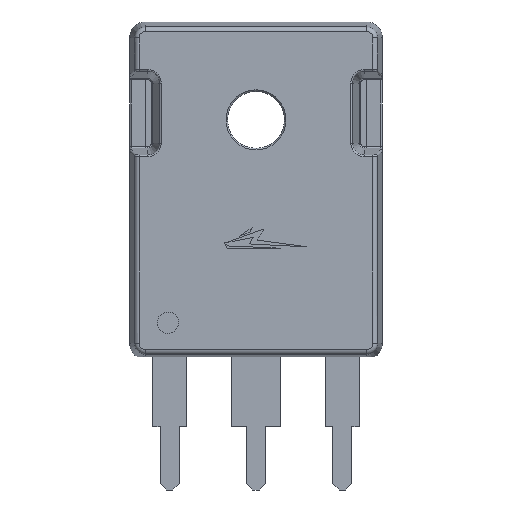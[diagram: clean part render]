
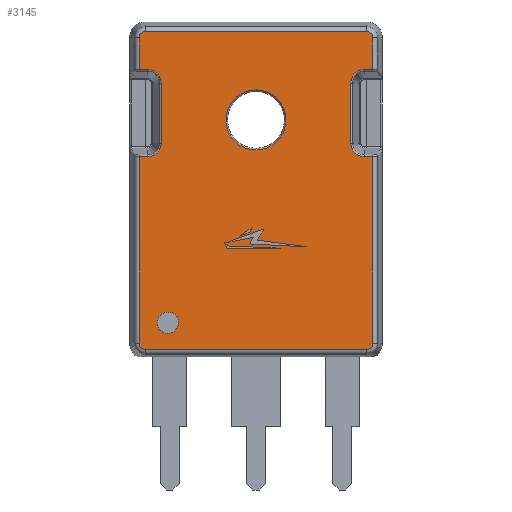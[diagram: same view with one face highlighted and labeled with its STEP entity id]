
A CAD part, left-side view. The second image highlights one B-rep face of the part: STEP entity #3145.
In plain terms, the highlighted planar face has unit normal (-1, 0, 0).
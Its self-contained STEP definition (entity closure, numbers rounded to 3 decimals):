
#163=FACE_BOUND('',#538,.T.);
#218=CIRCLE('',#3367,1.89);
#219=CIRCLE('',#3369,0.396);
#220=CIRCLE('',#3370,0.396);
#221=CIRCLE('',#3371,0.844);
#222=CIRCLE('',#3372,0.844);
#223=CIRCLE('',#3373,0.396);
#224=CIRCLE('',#3374,0.396);
#225=CIRCLE('',#3375,0.844);
#226=CIRCLE('',#3376,0.844);
#334=FACE_OUTER_BOUND('',#537,.T.);
#537=EDGE_LOOP('',(#2141,#2142,#2143,#2144,#2145,#2146,#2147,#2148,#2149,
#2150,#2151,#2152,#2153,#2154,#2155,#2156,#2157,#2158,#2159,#2160));
#538=EDGE_LOOP('',(#2161));
#747=LINE('',#4689,#1051);
#748=LINE('',#4691,#1052);
#749=LINE('',#4695,#1053);
#750=LINE('',#4699,#1054);
#751=LINE('',#4701,#1055);
#752=LINE('',#4705,#1056);
#753=LINE('',#4709,#1057);
#754=LINE('',#4711,#1058);
#755=LINE('',#4715,#1059);
#756=LINE('',#4719,#1060);
#757=LINE('',#4721,#1061);
#758=LINE('',#4725,#1062);
#1051=VECTOR('',#3727,0.546);
#1052=VECTOR('',#3728,11.766);
#1053=VECTOR('',#3731,13.94);
#1054=VECTOR('',#3734,11.766);
#1055=VECTOR('',#3735,0.546);
#1056=VECTOR('',#3738,3.79);
#1057=VECTOR('',#3741,0.546);
#1058=VECTOR('',#3742,2.006);
#1059=VECTOR('',#3745,13.94);
#1060=VECTOR('',#3748,2.006);
#1061=VECTOR('',#3749,0.546);
#1062=VECTOR('',#3752,3.79);
#1370=VERTEX_POINT('',#4684);
#1371=VERTEX_POINT('',#4687);
#1372=VERTEX_POINT('',#4688);
#1373=VERTEX_POINT('',#4690);
#1374=VERTEX_POINT('',#4692);
#1375=VERTEX_POINT('',#4694);
#1376=VERTEX_POINT('',#4696);
#1377=VERTEX_POINT('',#4698);
#1378=VERTEX_POINT('',#4700);
#1379=VERTEX_POINT('',#4702);
#1380=VERTEX_POINT('',#4704);
#1381=VERTEX_POINT('',#4706);
#1382=VERTEX_POINT('',#4708);
#1383=VERTEX_POINT('',#4710);
#1384=VERTEX_POINT('',#4712);
#1385=VERTEX_POINT('',#4714);
#1386=VERTEX_POINT('',#4716);
#1387=VERTEX_POINT('',#4718);
#1388=VERTEX_POINT('',#4720);
#1389=VERTEX_POINT('',#4722);
#1390=VERTEX_POINT('',#4724);
#1666=EDGE_CURVE('',#1370,#1370,#218,.T.);
#1667=EDGE_CURVE('',#1371,#1372,#747,.T.);
#1668=EDGE_CURVE('',#1373,#1371,#748,.T.);
#1669=EDGE_CURVE('',#1374,#1373,#219,.T.);
#1670=EDGE_CURVE('',#1375,#1374,#749,.T.);
#1671=EDGE_CURVE('',#1376,#1375,#220,.T.);
#1672=EDGE_CURVE('',#1377,#1376,#750,.T.);
#1673=EDGE_CURVE('',#1378,#1377,#751,.T.);
#1674=EDGE_CURVE('',#1379,#1378,#221,.T.);
#1675=EDGE_CURVE('',#1380,#1379,#752,.T.);
#1676=EDGE_CURVE('',#1381,#1380,#222,.T.);
#1677=EDGE_CURVE('',#1382,#1381,#753,.T.);
#1678=EDGE_CURVE('',#1383,#1382,#754,.T.);
#1679=EDGE_CURVE('',#1384,#1383,#223,.T.);
#1680=EDGE_CURVE('',#1385,#1384,#755,.T.);
#1681=EDGE_CURVE('',#1386,#1385,#224,.T.);
#1682=EDGE_CURVE('',#1387,#1386,#756,.T.);
#1683=EDGE_CURVE('',#1388,#1387,#757,.T.);
#1684=EDGE_CURVE('',#1389,#1388,#225,.T.);
#1685=EDGE_CURVE('',#1390,#1389,#758,.T.);
#1686=EDGE_CURVE('',#1372,#1390,#226,.T.);
#2141=ORIENTED_EDGE('',*,*,#1667,.F.);
#2142=ORIENTED_EDGE('',*,*,#1668,.F.);
#2143=ORIENTED_EDGE('',*,*,#1669,.F.);
#2144=ORIENTED_EDGE('',*,*,#1670,.F.);
#2145=ORIENTED_EDGE('',*,*,#1671,.F.);
#2146=ORIENTED_EDGE('',*,*,#1672,.F.);
#2147=ORIENTED_EDGE('',*,*,#1673,.F.);
#2148=ORIENTED_EDGE('',*,*,#1674,.F.);
#2149=ORIENTED_EDGE('',*,*,#1675,.F.);
#2150=ORIENTED_EDGE('',*,*,#1676,.F.);
#2151=ORIENTED_EDGE('',*,*,#1677,.F.);
#2152=ORIENTED_EDGE('',*,*,#1678,.F.);
#2153=ORIENTED_EDGE('',*,*,#1679,.F.);
#2154=ORIENTED_EDGE('',*,*,#1680,.F.);
#2155=ORIENTED_EDGE('',*,*,#1681,.F.);
#2156=ORIENTED_EDGE('',*,*,#1682,.F.);
#2157=ORIENTED_EDGE('',*,*,#1683,.F.);
#2158=ORIENTED_EDGE('',*,*,#1684,.F.);
#2159=ORIENTED_EDGE('',*,*,#1685,.F.);
#2160=ORIENTED_EDGE('',*,*,#1686,.F.);
#2161=ORIENTED_EDGE('',*,*,#1666,.F.);
#3031=PLANE('',#3368);
#3145=ADVANCED_FACE('',(#334,#163),#3031,.T.);
#3367=AXIS2_PLACEMENT_3D('',#4685,#3723,#3724);
#3368=AXIS2_PLACEMENT_3D('',#4686,#3725,#3726);
#3369=AXIS2_PLACEMENT_3D('',#4693,#3729,#3730);
#3370=AXIS2_PLACEMENT_3D('',#4697,#3732,#3733);
#3371=AXIS2_PLACEMENT_3D('',#4703,#3736,#3737);
#3372=AXIS2_PLACEMENT_3D('',#4707,#3739,#3740);
#3373=AXIS2_PLACEMENT_3D('',#4713,#3743,#3744);
#3374=AXIS2_PLACEMENT_3D('',#4717,#3746,#3747);
#3375=AXIS2_PLACEMENT_3D('',#4723,#3750,#3751);
#3376=AXIS2_PLACEMENT_3D('',#4726,#3753,#3754);
#3723=DIRECTION('center_axis',(-1.,0.,0.));
#3724=DIRECTION('ref_axis',(0.,0.,
-1.));
#3725=DIRECTION('center_axis',(-1.,0.,0.));
#3726=DIRECTION('ref_axis',(0.,-1.,0.));
#3727=DIRECTION('',(0.,-1.,0.));
#3728=DIRECTION('',(0.,0.,1.));
#3729=DIRECTION('center_axis',(1.,0.,0.));
#3730=DIRECTION('ref_axis',(0.,0.707,-0.707));
#3731=DIRECTION('',(0.,1.,0.));
#3732=DIRECTION('center_axis',(1.,0.,0.));
#3733=DIRECTION('ref_axis',(0.,-0.707,-0.707));
#3734=DIRECTION('',(0.,0.,-1.));
#3735=DIRECTION('',(0.,-1.,0.));
#3736=DIRECTION('center_axis',(-1.,0.,0.));
#3737=DIRECTION('ref_axis',(0.,0.707,-0.707));
#3738=DIRECTION('',(0.,0.,-1.));
#3739=DIRECTION('center_axis',(-1.,0.,0.));
#3740=DIRECTION('ref_axis',(0.,0.707,0.707));
#3741=DIRECTION('',(0.,1.,0.));
#3742=DIRECTION('',(0.,0.,-1.));
#3743=DIRECTION('center_axis',(1.,0.,0.));
#3744=DIRECTION('ref_axis',(0.,-0.707,0.707));
#3745=DIRECTION('',(0.,-1.,0.));
#3746=DIRECTION('center_axis',(1.,0.,0.));
#3747=DIRECTION('ref_axis',(0.,0.707,0.707));
#3748=DIRECTION('',(0.,0.,1.));
#3749=DIRECTION('',(0.,1.,0.));
#3750=DIRECTION('center_axis',(-1.,0.,0.));
#3751=DIRECTION('ref_axis',(0.,-0.707,0.707));
#3752=DIRECTION('',(0.,0.,1.));
#3753=DIRECTION('center_axis',(-1.,0.,0.));
#3754=DIRECTION('ref_axis',(0.,-0.707,-0.707));
#4684=CARTESIAN_POINT('',(-2.51,0.,21.22));
#4685=CARTESIAN_POINT('Origin',(-2.51,0.,19.33));
#4686=CARTESIAN_POINT('Origin',(-2.51,7.97,0.));
#4687=CARTESIAN_POINT('',(-2.51,7.366,17.016));
#4688=CARTESIAN_POINT('',(-2.51,6.82,17.016));
#4689=CARTESIAN_POINT('',(-2.51,8.333,17.016));
#4690=CARTESIAN_POINT('',(-2.51,7.366,5.25));
#4691=CARTESIAN_POINT('',(-2.51,7.366,0.));
#4692=CARTESIAN_POINT('',(-2.51,6.97,4.854));
#4693=CARTESIAN_POINT('Origin',(-2.51,6.97,5.25));
#4694=CARTESIAN_POINT('',(-2.51,-6.97,4.854));
#4695=CARTESIAN_POINT('',(-2.51,7.97,4.854));
#4696=CARTESIAN_POINT('',(-2.51,-7.366,5.25));
#4697=CARTESIAN_POINT('Origin',(-2.51,-6.97,5.25));
#4698=CARTESIAN_POINT('',(-2.51,-7.366,17.016));
#4699=CARTESIAN_POINT('',(-2.51,-7.366,0.));
#4700=CARTESIAN_POINT('',(-2.51,-6.82,17.016));
#4701=CARTESIAN_POINT('',(-2.51,3.623,17.016));
#4702=CARTESIAN_POINT('',(-2.51,-5.976,17.86));
#4703=CARTESIAN_POINT('Origin',(-2.51,-6.82,17.86));
#4704=CARTESIAN_POINT('',(-2.51,-5.976,21.65));
#4705=CARTESIAN_POINT('',(-2.51,-5.976,4.39));
#4706=CARTESIAN_POINT('',(-2.51,-6.82,22.494));
#4707=CARTESIAN_POINT('Origin',(-2.51,-6.82,21.65));
#4708=CARTESIAN_POINT('',(-2.51,-7.366,22.494));
#4709=CARTESIAN_POINT('',(-2.51,4.348,22.494));
#4710=CARTESIAN_POINT('',(-2.51,-7.366,24.5));
#4711=CARTESIAN_POINT('',(-2.51,-7.366,0.));
#4712=CARTESIAN_POINT('',(-2.51,-6.97,24.896));
#4713=CARTESIAN_POINT('Origin',(-2.51,-6.97,24.5));
#4714=CARTESIAN_POINT('',(-2.51,6.97,24.896));
#4715=CARTESIAN_POINT('',(-2.51,5.978,24.896));
#4716=CARTESIAN_POINT('',(-2.51,7.366,24.5));
#4717=CARTESIAN_POINT('Origin',(-2.51,6.97,24.5));
#4718=CARTESIAN_POINT('',(-2.51,7.366,22.494));
#4719=CARTESIAN_POINT('',(-2.51,7.366,0.));
#4720=CARTESIAN_POINT('',(-2.51,6.82,22.494));
#4721=CARTESIAN_POINT('',(-2.51,7.608,22.494));
#4722=CARTESIAN_POINT('',(-2.51,5.976,21.65));
#4723=CARTESIAN_POINT('Origin',(-2.51,6.82,21.65));
#4724=CARTESIAN_POINT('',(-2.51,5.976,17.86));
#4725=CARTESIAN_POINT('',(-2.51,5.976,4.39));
#4726=CARTESIAN_POINT('Origin',(-2.51,6.82,17.86));
